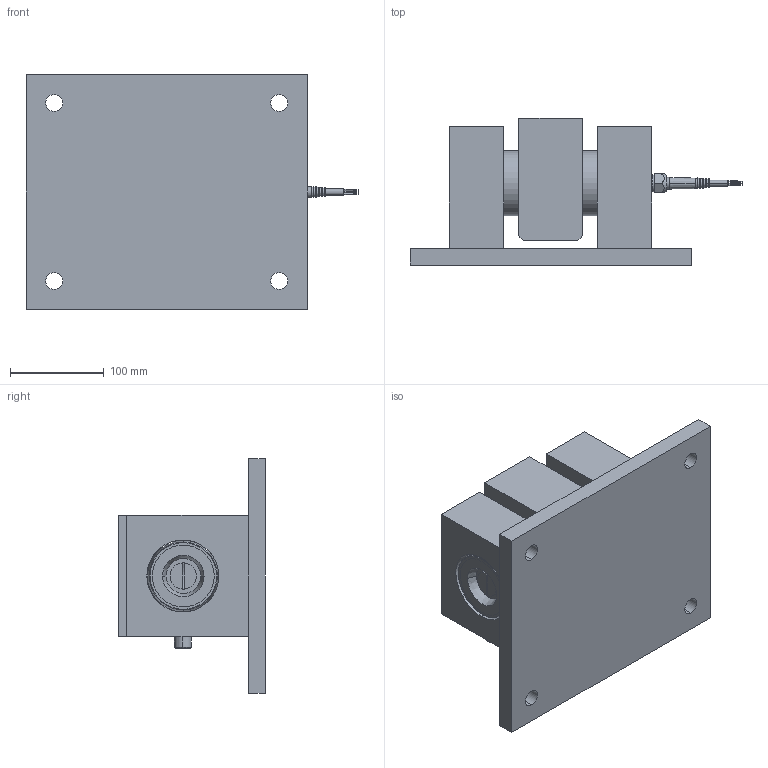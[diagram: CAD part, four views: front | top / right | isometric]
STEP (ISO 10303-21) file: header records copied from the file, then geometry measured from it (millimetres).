
FILE_DESCRIPTION (( 'STEP AP203' ), '1' );
FILE_NAME ('KDH-5 200-500 kN r1.STEP', '2020-11-10T16:36:46', ( '' ), ( '' ), 'SwSTEP 2.0', 'SolidWorks 2020', '' );
FILE_SCHEMA (( 'CONFIG_CONTROL_DESIGN' ));
Length unit declared in the file: millimetre
Products named in the file (12): socket head cap screw_am_B18.3.1M - 12 x 1.75 x 35 Hex SHCS -- 35NHX; Kabel; Pg9 - 1009.52 6_2_14; Fäste KDH 200-500 right; OK KDH-3 200-500 r1; M26x1.5 - Lock - 600490r1; Bottenplatta KDH 200-500; Element KOSD-5 300 - 500 kN ; KOSD-5 300-500 kN; M26x1.5 - Pg9 - 6369829; Fäste KDH 200-500 left; KDH-5 200-500 kN r1
Assembly tree (12 placements, depth 3):
  KDH-5 200-500 kN r1
    Bottenplatta KDH 200-500
    Fäste KDH 200-500 left
    OK KDH-3 200-500 r1
    KOSD-5 300-500 kN
      Element KOSD-5 300 - 500 kN 
      M26x1.5 - Pg9 - 6369829
      Pg9 - 1009.52 6_2_14
      M26x1.5 - Lock - 600490r1
      Kabel
    socket head cap screw_am_B18.3.1M - 12 x 1.75 x 35 Hex SHCS -- 35NHX  x2
    Fäste KDH 200-500 right
Bounding box: 354.11 x 156.5 x 250 mm (x, y, z)
Volume: 4352965.3 mm3; surface area: 484075 mm2
Topology: 11 solids, 14 shells, 407 faces, 894 edges, 538 vertices
Faces by surface type: cylinder 136, plane 116, cone 81, torus 48, bspline 26
Entity records: 12478 total; most frequent: CARTESIAN_POINT 2594, DIRECTION 1993, ORIENTED_EDGE 1652, AXIS2_PLACEMENT_3D 835, EDGE_CURVE 826, VERTEX_POINT 505, CIRCLE 465, EDGE_LOOP 443
